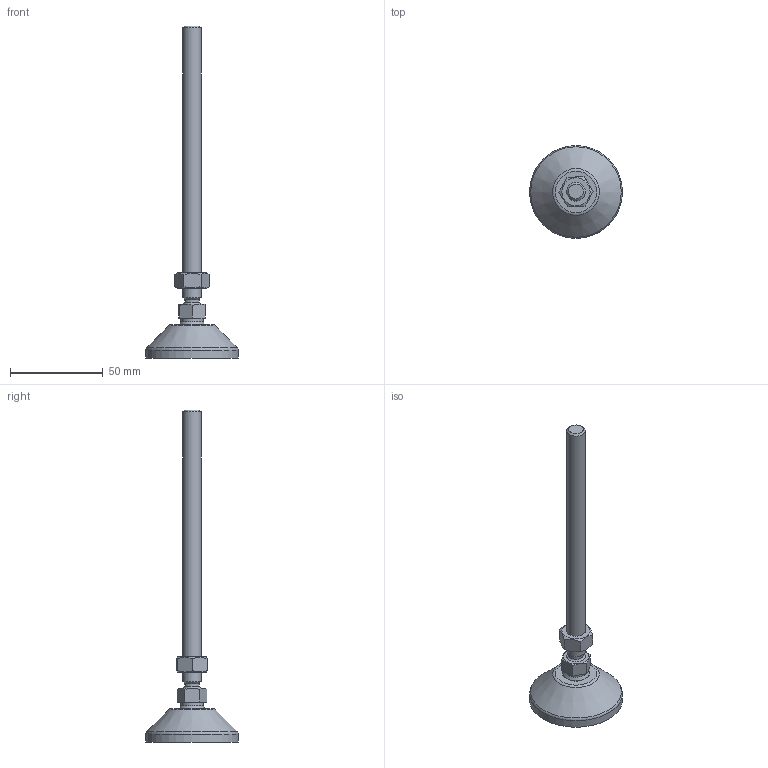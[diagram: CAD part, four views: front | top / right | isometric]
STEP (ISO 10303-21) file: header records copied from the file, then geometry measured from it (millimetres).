
FILE_DESCRIPTION(('STEP AP203'), '1');
FILE_NAME('栖闉罻', '', ('UNSPECIFIED'), ('UNSPECIFIED'), 'C3D Converter', 'C3D Toolkit', '');
FILE_SCHEMA(('CONFIG_CONTROL_DESIGN'));
Length unit declared in the file: millimetre
Products named in the file (4): A00015.1050; A00020.110150
Assembly tree (3 placements, depth 3):
  (unnamed)
    A00015.1050
    A00020.110150
      (unnamed)
Bounding box: 50 x 50 x 179 mm (x, y, z)
Volume: 31524.1 mm3; surface area: 14634.7 mm2
Topology: 3 solids, 3 shells, 182 faces, 487 edges, 323 vertices
Faces by surface type: plane 86, cylinder 50, torus 30, cone 14, sphere 2
Full cylindrical faces by diameter (mm): 4 x8, 8 x1, 8.376 x1, 10 x1, 12 x1, 14.3 x1, 15 x2, 15.5 x1, 39 x1, 50 x1
Entity records: 9361 total; most frequent: CARTESIAN_POINT 3268, DIRECTION 934, ORIENTED_EDGE 904, EDGE_CURVE 452, AXIS2_PLACEMENT_3D 386, VERTEX_POINT 322, EDGE_LOOP 230, CIRCLE 200
